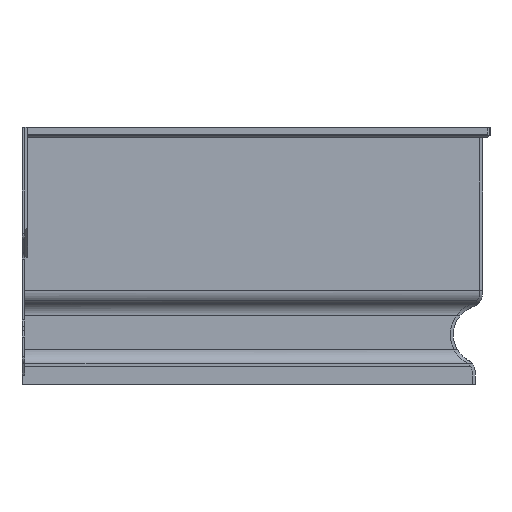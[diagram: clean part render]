
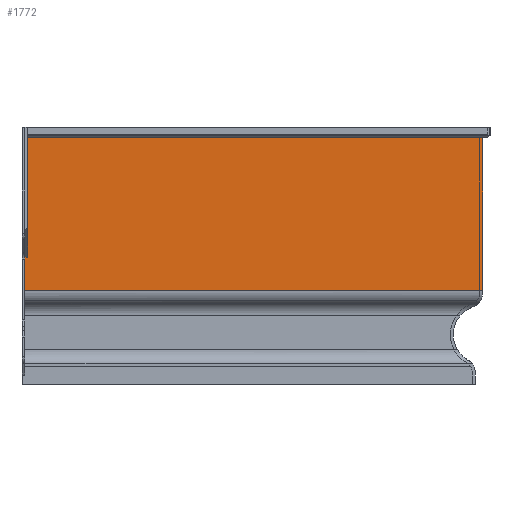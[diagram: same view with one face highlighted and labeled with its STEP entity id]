
A CAD part, left-side view. The second image highlights one B-rep face of the part: STEP entity #1772.
In plain terms, the highlighted planar face has unit normal (-1, 0, 0).
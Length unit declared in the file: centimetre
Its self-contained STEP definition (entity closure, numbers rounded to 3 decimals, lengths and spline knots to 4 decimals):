
#174=FACE_OUTER_BOUND('',#273,.T.);
#273=EDGE_LOOP('',(#1436,#1437,#1438,#1439,#1440,#1441));
#434=LINE('',#2838,#624);
#440=LINE('',#2849,#630);
#460=LINE('',#2908,#650);
#462=LINE('',#2912,#652);
#463=LINE('',#2914,#653);
#464=LINE('',#2915,#654);
#624=VECTOR('',#2204,0.4);
#630=VECTOR('',#2214,16.2509);
#650=VECTOR('',#2262,61.9);
#652=VECTOR('',#2266,4.5491);
#653=VECTOR('',#2267,62.3);
#654=VECTOR('',#2268,20.8);
#815=VERTEX_POINT('',#2834);
#817=VERTEX_POINT('',#2837);
#820=VERTEX_POINT('',#2848);
#845=VERTEX_POINT('',#2907);
#846=VERTEX_POINT('',#2911);
#847=VERTEX_POINT('',#2913);
#1027=EDGE_CURVE('',#817,#815,#434,.T.);
#1033=EDGE_CURVE('',#820,#817,#440,.T.);
#1063=EDGE_CURVE('',#845,#820,#460,.T.);
#1065=EDGE_CURVE('',#846,#815,#462,.T.);
#1066=EDGE_CURVE('',#847,#846,#463,.T.);
#1067=EDGE_CURVE('',#847,#845,#464,.T.);
#1436=ORIENTED_EDGE('',*,*,#1033,.T.);
#1437=ORIENTED_EDGE('',*,*,#1027,.T.);
#1438=ORIENTED_EDGE('',*,*,#1065,.F.);
#1439=ORIENTED_EDGE('',*,*,#1066,.F.);
#1440=ORIENTED_EDGE('',*,*,#1067,.T.);
#1441=ORIENTED_EDGE('',*,*,#1063,.T.);
#1703=PLANE('',#1903);
#1772=ADVANCED_FACE('',(#174),#1703,.F.);
#1903=AXIS2_PLACEMENT_3D('',#2910,#2264,#2265);
#2204=DIRECTION('',(0.,1.,0.));
#2214=DIRECTION('',(0.,0.,-1.));
#2262=DIRECTION('',(0.,1.,0.));
#2264=DIRECTION('center_axis',(1.,0.,0.));
#2265=DIRECTION('ref_axis',(0.,0.,-1.));
#2266=DIRECTION('',(0.,0.,1.));
#2267=DIRECTION('',(0.,1.,0.));
#2268=DIRECTION('',(0.,0.,1.));
#2834=CARTESIAN_POINT('',(-78.65,-0.4,17.3491));
#2837=CARTESIAN_POINT('',(-78.65,-0.8,17.3491));
#2838=CARTESIAN_POINT('',(-78.65,-15.7955,17.3491));
#2848=CARTESIAN_POINT('',(-78.65,-0.8,33.6));
#2849=CARTESIAN_POINT('',(-78.65,-0.8,22.5633));
#2907=CARTESIAN_POINT('',(-78.65,-62.7,33.6));
#2908=CARTESIAN_POINT('',(-78.65,0.,33.6));
#2910=CARTESIAN_POINT('Origin',(-78.65,-31.1909,18.2474));
#2911=CARTESIAN_POINT('',(-78.65,-0.4,12.8));
#2912=CARTESIAN_POINT('',(-78.65,-0.4,18.0244));
#2913=CARTESIAN_POINT('',(-78.65,-62.7,12.8));
#2914=CARTESIAN_POINT('',(-78.65,-46.9455,12.8));
#2915=CARTESIAN_POINT('',(-78.65,-62.7,33.6));
